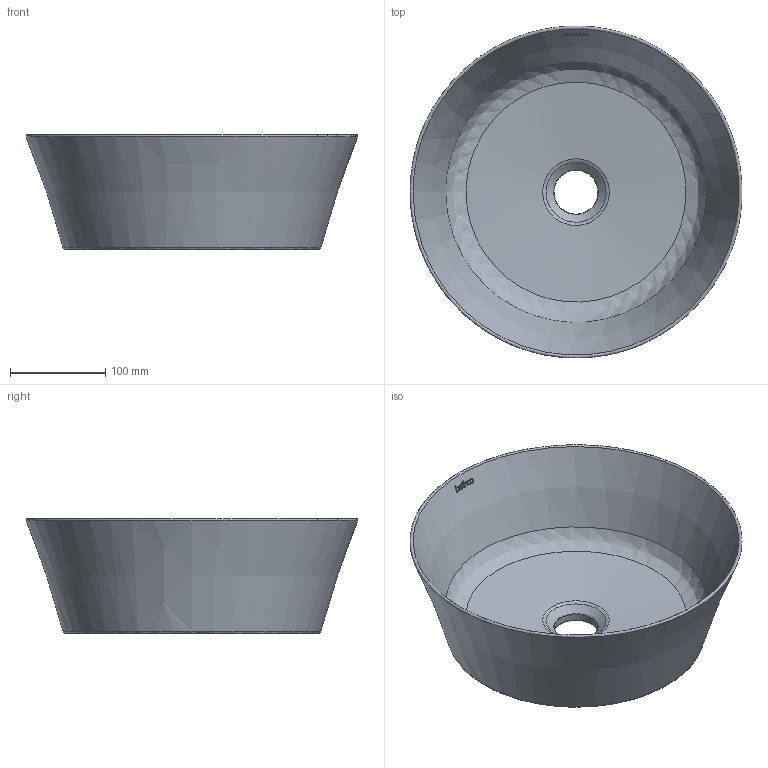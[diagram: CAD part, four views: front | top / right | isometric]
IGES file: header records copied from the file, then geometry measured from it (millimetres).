
Global section: file name: D:\Renovando Conceptos\Trabajos Varios\BathCo\47 Biblioteca Lavabos 3D\4086_Volta 35\4086_VOLTA 35.igs; native system: Rhinoceros ( May  7 2021 ); preprocessor: Trout Lake IGES 012 May  7 2021; date: 221214.125445; units: millimetre
Bounding box: 348.3 x 348.23 x 120 mm (x, y, z)
Surface area: 336246 mm2 (no closed solid volume)
Topology: 0 solids, 0 shells, 107 faces, 828 edges, 808 vertices
Faces by surface type: bspline 107
